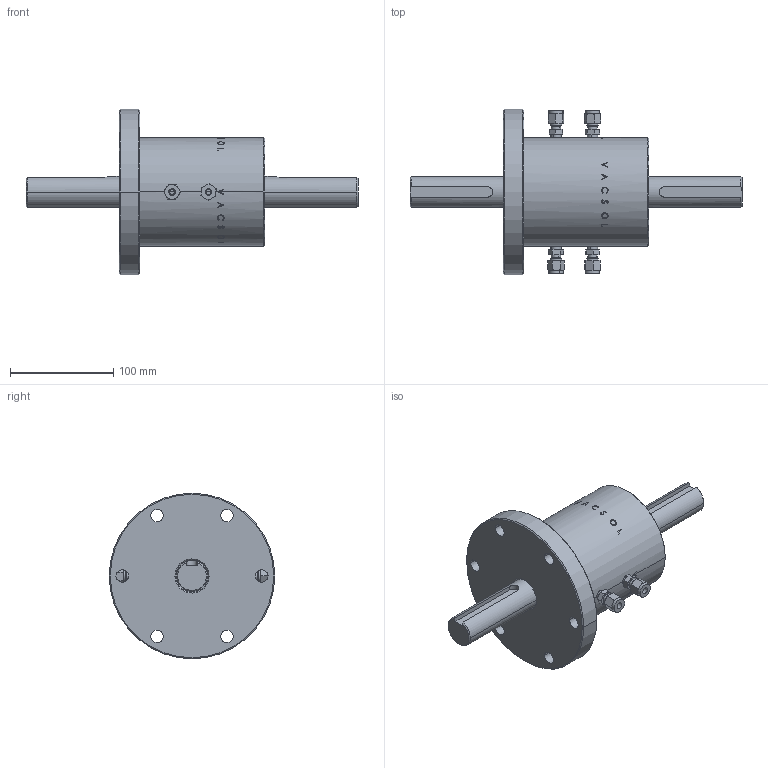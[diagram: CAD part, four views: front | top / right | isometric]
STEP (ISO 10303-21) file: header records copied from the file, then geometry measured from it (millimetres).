
FILE_DESCRIPTION (( 'STEP AP203' ), '1' );
FILE_NAME ('13301.STEP', '2010-12-12T12:21:19', ( 'user' ), ( '' ), 'SwSTEP 2.0', 'SolidWorks 2007', '' );
FILE_SCHEMA (( 'CONFIG_CONTROL_DESIGN' ));
Length unit declared in the file: millimetre
Products named in the file (3): 13301; P13301_??; SS_400_1_2RT_??
Assembly tree (5 placements, depth 2):
  13301
    SS_400_1_2RT_??  x4
    P13301_??
Bounding box: 321 x 160 x 160 mm (x, y, z)
Volume: 1567407.7 mm3; surface area: 124580.3 mm2
Topology: 5 solids, 5 shells, 518 faces, 1232 edges, 770 vertices
Faces by surface type: bspline 177, cone 148, cylinder 103, plane 90
Entity records: 29651 total; most frequent: CARTESIAN_POINT 22945, ORIENTED_EDGE 1648, EDGE_CURVE 824, DIRECTION 691, B_SPLINE_CURVE_WITH_KNOTS 591, VERTEX_POINT 533, EDGE_LOOP 377, FACE_OUTER_BOUND 329
